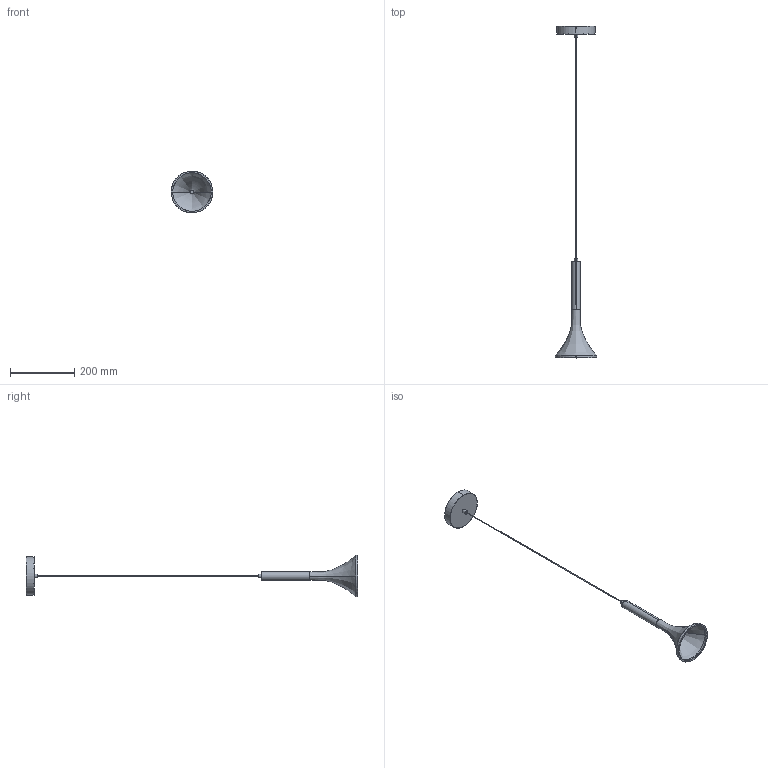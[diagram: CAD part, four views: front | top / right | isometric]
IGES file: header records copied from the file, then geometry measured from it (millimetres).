
Start section: SolidWorks IGES file using analytic representation for surfaces
Global section: file name: F:\燠隴矨\3D\2025-6\Aplomb Travertine Pendant Lamp.IGS,15; native system: HSolidWorks 2022; preprocessor: SolidWorks 2022; author: MyPC; date: 250604.170014; units: millimetre
Bounding box: 130 x 1036.96 x 130 mm (x, y, z)
Surface area: 120491.8 mm2 (no closed solid volume)
Topology: 0 solids, 0 shells, 237 faces, 2753 edges, 2753 vertices
Faces by surface type: bspline 177, revolution 60
